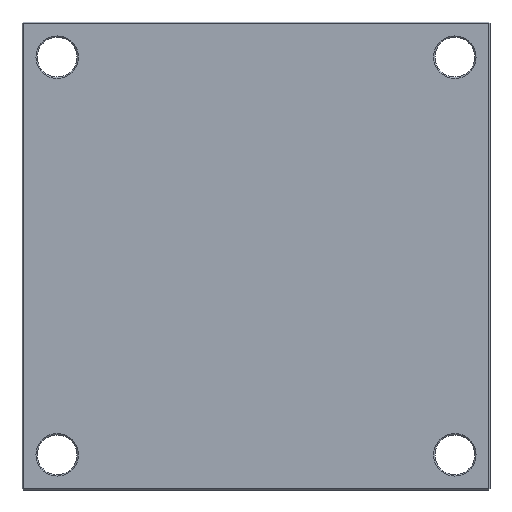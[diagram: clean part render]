
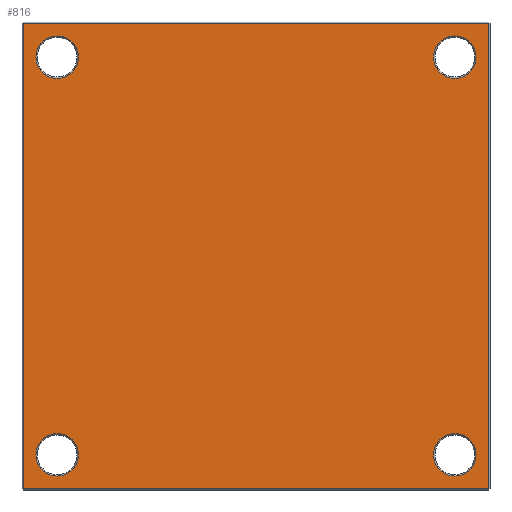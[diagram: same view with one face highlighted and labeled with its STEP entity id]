
A CAD part, front view. The second image highlights one B-rep face of the part: STEP entity #816.
In plain terms, the highlighted planar face has unit normal (0, -1, 0).
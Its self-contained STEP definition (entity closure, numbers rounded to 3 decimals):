
#11 = AXIS2_PLACEMENT_3D ( 'NONE', #1338, #1483, #270 ) ;
#31 = VECTOR ( 'NONE', #1922, 1000. ) ;
#76 = CIRCLE ( 'NONE', #2158, 15.7 ) ;
#181 = ORIENTED_EDGE ( 'NONE', *, *, #1248, .T. ) ;
#201 = ORIENTED_EDGE ( 'NONE', *, *, #1256, .T. ) ;
#204 = PLANE ( 'NONE',  #11 ) ;
#221 = CARTESIAN_POINT ( 'NONE',  ( 172., 0., 172. ) ) ;
#223 = ORIENTED_EDGE ( 'NONE', *, *, #516, .T. ) ;
#234 = VERTEX_POINT ( 'NONE', #1009 ) ;
#270 = DIRECTION ( 'NONE',  ( 0., 0., 1. ) ) ;
#320 = FACE_BOUND ( 'NONE', #2101, .T. ) ;
#348 = CARTESIAN_POINT ( 'NONE',  ( -172., 0., 0. ) ) ;
#360 = ORIENTED_EDGE ( 'NONE', *, *, #1246, .T. ) ;
#390 = CARTESIAN_POINT ( 'NONE',  ( 147., 0., 147. ) ) ;
#398 = CIRCLE ( 'NONE', #1153, 15.7 ) ;
#417 = CARTESIAN_POINT ( 'NONE',  ( 147., 0., -131.3 ) ) ;
#424 = DIRECTION ( 'NONE',  ( 0., 1., 0. ) ) ;
#431 = DIRECTION ( 'NONE',  ( 0., 0., 1. ) ) ;
#480 = LINE ( 'NONE', #1042, #31 ) ;
#516 = EDGE_CURVE ( 'NONE', #1324, #995, #1004, .T. ) ;
#531 = CIRCLE ( 'NONE', #862, 15.7 ) ;
#538 = CARTESIAN_POINT ( 'NONE',  ( -147., 0., -147. ) ) ;
#554 = EDGE_LOOP ( 'NONE', ( #1074, #223 ) ) ;
#577 = CIRCLE ( 'NONE', #2177, 15.7 ) ;
#642 = VERTEX_POINT ( 'NONE', #1966 ) ;
#685 = VERTEX_POINT ( 'NONE', #1245 ) ;
#687 = DIRECTION ( 'NONE',  ( 0., 1., 0. ) ) ;
#691 = DIRECTION ( 'NONE',  ( 0., 0., 1. ) ) ;
#714 = FACE_OUTER_BOUND ( 'NONE', #1653, .T. ) ;
#727 = CARTESIAN_POINT ( 'NONE',  ( -172., 0., 172. ) ) ;
#776 = ORIENTED_EDGE ( 'NONE', *, *, #1250, .T. ) ;
#816 = ADVANCED_FACE ( 'NONE', ( #1774, #2122, #320, #1676, #714 ), #204, .F. ) ;
#851 = CARTESIAN_POINT ( 'NONE',  ( 147., 0., 147. ) ) ;
#852 = VECTOR ( 'NONE', #859, 1000. ) ;
#859 = DIRECTION ( 'NONE',  ( 0., 0., -1. ) ) ;
#862 = AXIS2_PLACEMENT_3D ( 'NONE', #538, #687, #691 ) ;
#871 = ORIENTED_EDGE ( 'NONE', *, *, #1262, .T. ) ;
#881 = EDGE_LOOP ( 'NONE', ( #1280, #360 ) ) ;
#896 = LINE ( 'NONE', #1588, #1861 ) ;
#976 = CIRCLE ( 'NONE', #2164, 15.7 ) ;
#995 = VERTEX_POINT ( 'NONE', #1406 ) ;
#1004 = CIRCLE ( 'NONE', #1870, 15.7 ) ;
#1009 = CARTESIAN_POINT ( 'NONE',  ( -172., 0., -172. ) ) ;
#1015 = DIRECTION ( 'NONE',  ( 0., 1., 0. ) ) ;
#1020 = VERTEX_POINT ( 'NONE', #221 ) ;
#1023 = DIRECTION ( 'NONE',  ( 0., 0., 1. ) ) ;
#1031 = DIRECTION ( 'NONE',  ( -1., 0., 0. ) ) ;
#1042 = CARTESIAN_POINT ( 'NONE',  ( 172., 0., 0. ) ) ;
#1074 = ORIENTED_EDGE ( 'NONE', *, *, #1506, .T. ) ;
#1102 = CARTESIAN_POINT ( 'NONE',  ( -147., 0., 162.7 ) ) ;
#1153 = AXIS2_PLACEMENT_3D ( 'NONE', #1215, #1170, #2055 ) ;
#1170 = DIRECTION ( 'NONE',  ( 0., 1., 0. ) ) ;
#1174 = EDGE_CURVE ( 'NONE', #1752, #2175, #1735, .T. ) ;
#1180 = AXIS2_PLACEMENT_3D ( 'NONE', #1730, #1736, #1749 ) ;
#1195 = DIRECTION ( 'NONE',  ( 0., 1., 0. ) ) ;
#1215 = CARTESIAN_POINT ( 'NONE',  ( -147., 0., -147. ) ) ;
#1221 = EDGE_LOOP ( 'NONE', ( #2080, #776 ) ) ;
#1229 = CARTESIAN_POINT ( 'NONE',  ( -147., 0., 147. ) ) ;
#1245 = CARTESIAN_POINT ( 'NONE',  ( 172., 0., -172. ) ) ;
#1246 = EDGE_CURVE ( 'NONE', #2064, #1610, #531, .T. ) ;
#1248 = EDGE_CURVE ( 'NONE', #642, #1739, #577, .T. ) ;
#1250 = EDGE_CURVE ( 'NONE', #2175, #1752, #76, .T. ) ;
#1256 = EDGE_CURVE ( 'NONE', #685, #1020, #480, .T. ) ;
#1257 = ORIENTED_EDGE ( 'NONE', *, *, #1258, .T. ) ;
#1258 = EDGE_CURVE ( 'NONE', #1020, #1391, #896, .T. ) ;
#1259 = EDGE_CURVE ( 'NONE', #1391, #234, #1412, .T. ) ;
#1262 = EDGE_CURVE ( 'NONE', #234, #685, #1360, .T. ) ;
#1280 = ORIENTED_EDGE ( 'NONE', *, *, #1723, .T. ) ;
#1324 = VERTEX_POINT ( 'NONE', #417 ) ;
#1338 = CARTESIAN_POINT ( 'NONE',  ( 0., 0., 0. ) ) ;
#1360 = LINE ( 'NONE', #1417, #2169 ) ;
#1376 = EDGE_CURVE ( 'NONE', #1739, #642, #976, .T. ) ;
#1384 = ORIENTED_EDGE ( 'NONE', *, *, #1259, .T. ) ;
#1391 = VERTEX_POINT ( 'NONE', #727 ) ;
#1397 = CARTESIAN_POINT ( 'NONE',  ( -147., 0., 147. ) ) ;
#1406 = CARTESIAN_POINT ( 'NONE',  ( 147., 0., -162.7 ) ) ;
#1410 = DIRECTION ( 'NONE',  ( 0., 1., 0. ) ) ;
#1412 = LINE ( 'NONE', #348, #852 ) ;
#1417 = CARTESIAN_POINT ( 'NONE',  ( 0., 0., -172. ) ) ;
#1446 = CIRCLE ( 'NONE', #1180, 15.7 ) ;
#1483 = DIRECTION ( 'NONE',  ( 0., 1., 0. ) ) ;
#1491 = CARTESIAN_POINT ( 'NONE',  ( -147., 0., 131.3 ) ) ;
#1506 = EDGE_CURVE ( 'NONE', #995, #1324, #1446, .T. ) ;
#1516 = CARTESIAN_POINT ( 'NONE',  ( 147., 0., 131.3 ) ) ;
#1580 = DIRECTION ( 'NONE',  ( 0., 0., 1. ) ) ;
#1588 = CARTESIAN_POINT ( 'NONE',  ( 0., 0., 172. ) ) ;
#1598 = DIRECTION ( 'NONE',  ( 1., 0., 0. ) ) ;
#1610 = VERTEX_POINT ( 'NONE', #2013 ) ;
#1653 = EDGE_LOOP ( 'NONE', ( #201, #1257, #1384, #871 ) ) ;
#1676 = FACE_BOUND ( 'NONE', #1221, .T. ) ;
#1679 = CARTESIAN_POINT ( 'NONE',  ( -147., 0., -131.3 ) ) ;
#1723 = EDGE_CURVE ( 'NONE', #1610, #2064, #398, .T. ) ;
#1730 = CARTESIAN_POINT ( 'NONE',  ( 147., 0., -147. ) ) ;
#1735 = CIRCLE ( 'NONE', #2102, 15.7 ) ;
#1736 = DIRECTION ( 'NONE',  ( 0., 1., 0. ) ) ;
#1739 = VERTEX_POINT ( 'NONE', #1516 ) ;
#1749 = DIRECTION ( 'NONE',  ( 0., 0., 1. ) ) ;
#1752 = VERTEX_POINT ( 'NONE', #1491 ) ;
#1774 = FACE_BOUND ( 'NONE', #881, .T. ) ;
#1861 = VECTOR ( 'NONE', #1031, 1000. ) ;
#1870 = AXIS2_PLACEMENT_3D ( 'NONE', #1890, #1957, #1963 ) ;
#1890 = CARTESIAN_POINT ( 'NONE',  ( 147., 0., -147. ) ) ;
#1922 = DIRECTION ( 'NONE',  ( 0., 0., 1. ) ) ;
#1957 = DIRECTION ( 'NONE',  ( 0., 1., 0. ) ) ;
#1963 = DIRECTION ( 'NONE',  ( 0., 0., 1. ) ) ;
#1966 = CARTESIAN_POINT ( 'NONE',  ( 147., 0., 162.7 ) ) ;
#2013 = CARTESIAN_POINT ( 'NONE',  ( -147., 0., -162.7 ) ) ;
#2046 = DIRECTION ( 'NONE',  ( 0., 0., 1. ) ) ;
#2047 = ORIENTED_EDGE ( 'NONE', *, *, #1376, .T. ) ;
#2055 = DIRECTION ( 'NONE',  ( 0., 0., 1. ) ) ;
#2064 = VERTEX_POINT ( 'NONE', #1679 ) ;
#2080 = ORIENTED_EDGE ( 'NONE', *, *, #1174, .T. ) ;
#2101 = EDGE_LOOP ( 'NONE', ( #2047, #181 ) ) ;
#2102 = AXIS2_PLACEMENT_3D ( 'NONE', #1397, #1195, #2046 ) ;
#2122 = FACE_BOUND ( 'NONE', #554, .T. ) ;
#2158 = AXIS2_PLACEMENT_3D ( 'NONE', #1229, #1410, #1580 ) ;
#2164 = AXIS2_PLACEMENT_3D ( 'NONE', #390, #424, #431 ) ;
#2169 = VECTOR ( 'NONE', #1598, 1000. ) ;
#2175 = VERTEX_POINT ( 'NONE', #1102 ) ;
#2177 = AXIS2_PLACEMENT_3D ( 'NONE', #851, #1015, #1023 ) ;
